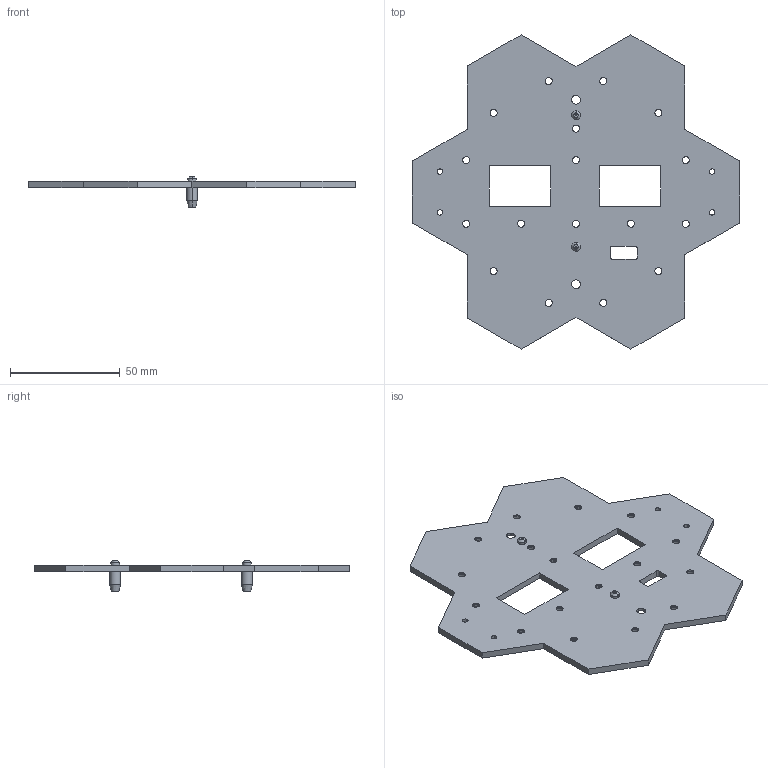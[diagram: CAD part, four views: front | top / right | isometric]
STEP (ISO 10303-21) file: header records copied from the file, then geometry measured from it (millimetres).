
FILE_DESCRIPTION(('CATIA V5 STEP Exchange','CAx-IF Rec.Pracs.--- Model Styling and Organization---1.4--- 2014-01-23','CAx-IF Rec.Pracs.---3D Tessellated Data Validation Properties---0.5---2014-09-14'),'2;1');
FILE_NAME('D:\CTA\NECTARCAM PROD\CTA-01 - Camera Module\CTA-0101 - Focal Plane Module\CTA-010104 - Mechanical Components\CTA-010104-011 - Module_Base_Plate_Assembly.stp','2026-03-13T09:51:05+00:00',('none'),('none'),'CATIA Version 5-6 Release 2018 SP5 HF4','CATIA V5 STEP AP242','none');
FILE_SCHEMA(('AP242_MANAGED_MODEL_BASED_3D_ENGINEERING_MIM_LF {1 0 10303 442 1 1 4}'));
Length unit declared in the file: millimetre
Products named in the file (3): CTA-010104-011; CTA-010104-001; MISUMI-JPBPB-4-5
Assembly tree (3 placements, depth 2):
  CTA-010104-011
    CTA-010104-001
    MISUMI-JPBPB-4-5  x2
Bounding box: 149 x 143.18 x 14 mm (x, y, z)
Volume: 40440.3 mm3; surface area: 30676.7 mm2
Topology: 3 solids, 3 shells, 202 faces, 502 edges, 306 vertices
Faces by surface type: cylinder 104, cone 50, plane 40, torus 8
Entity records: 5070 total; most frequent: CARTESIAN_POINT 926, ORIENTED_EDGE 894, DIRECTION 677, EDGE_CURVE 447, AXIS2_PLACEMENT_3D 349, VERTEX_POINT 275, EDGE_LOOP 242, CIRCLE 215
